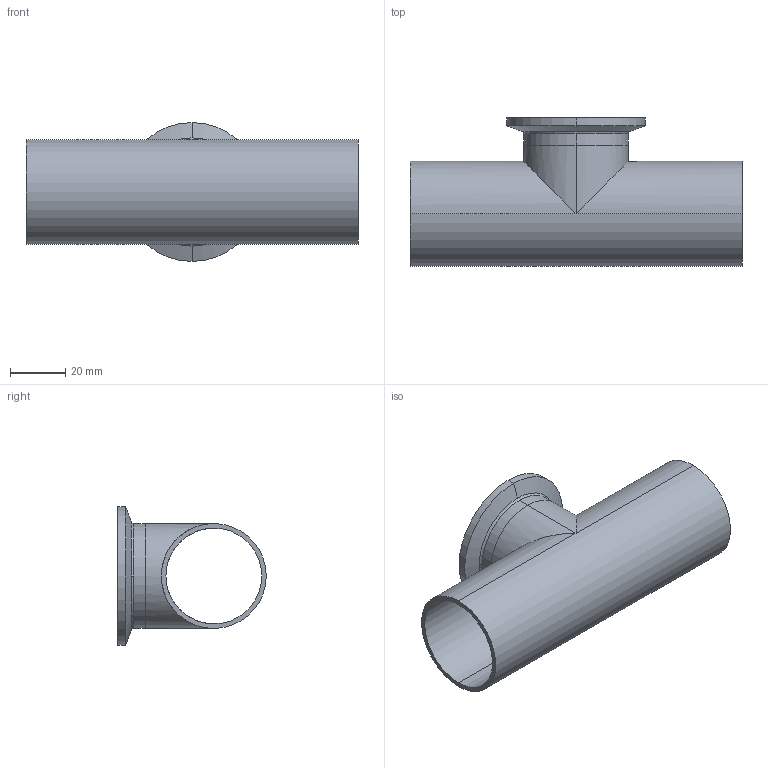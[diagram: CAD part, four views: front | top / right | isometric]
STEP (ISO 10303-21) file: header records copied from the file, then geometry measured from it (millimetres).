
FILE_DESCRIPTION (( 'STEP AP214' ), '1' );
FILE_NAME ('TE7WWCS6L1.5-...STEP', '2016-05-24T12:09:41', ( 'eran' ), ( '' ), 'SwSTEP 2.0', 'SolidWorks 2016', '' );
FILE_SCHEMA (( 'AUTOMOTIVE_DESIGN' ));
Length unit declared in the file: millimetre
Products named in the file (1): TE7WWCS6L1.5-..
Bounding box: 120.6 x 53.95 x 50.39 mm (x, y, z)
Volume: 28159.8 mm3; surface area: 32872.5 mm2
Topology: 2 solids, 2 shells, 38 faces, 92 edges, 58 vertices
Faces by surface type: cylinder 16, bspline 10, plane 6, cone 6
Entity records: 1810 total; most frequent: CARTESIAN_POINT 875, DIRECTION 198, ORIENTED_EDGE 184, EDGE_CURVE 92, AXIS2_PLACEMENT_3D 87, CIRCLE 58, VERTEX_POINT 58, EDGE_LOOP 44
